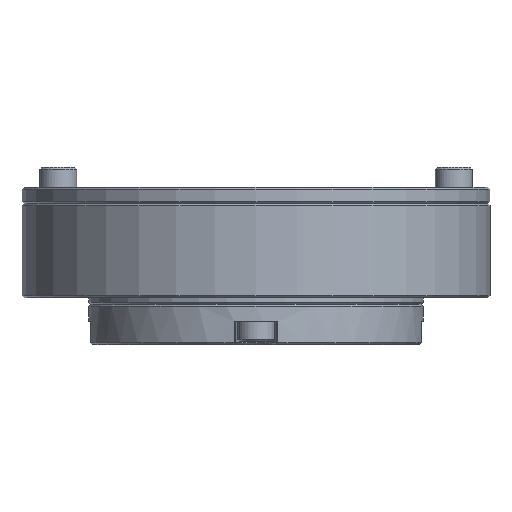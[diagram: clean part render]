
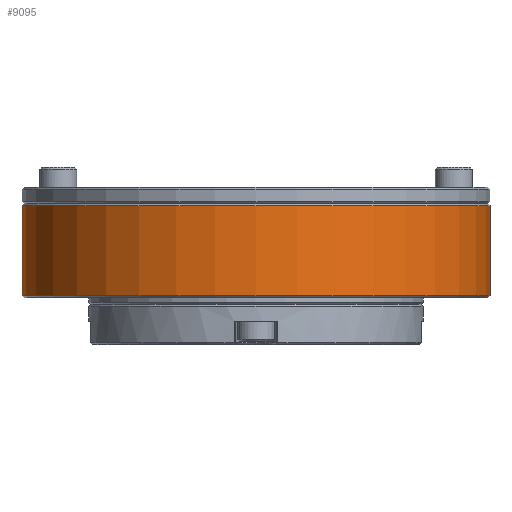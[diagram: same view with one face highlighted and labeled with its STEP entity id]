
A CAD part, front view. The second image highlights one B-rep face of the part: STEP entity #9095.
In plain terms, the highlighted cylindrical face has radius 35 mm (diameter 70 mm), a partial arc.
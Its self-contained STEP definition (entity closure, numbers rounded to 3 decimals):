
#312 = ORIENTED_EDGE ( 'NONE', *, *, #9063, .F. ) ;
#628 = AXIS2_PLACEMENT_3D ( 'NONE', #2216, #2270, #2366 ) ;
#930 = CIRCLE ( 'NONE', #628, 35. ) ;
#958 = EDGE_CURVE ( 'NONE', #7779, #5281, #930, .T. ) ;
#2216 = CARTESIAN_POINT ( 'NONE',  ( 5.714, 2.214, 53.05 ) ) ;
#2270 = DIRECTION ( 'NONE',  ( 0., 0., 1. ) ) ;
#2318 = EDGE_LOOP ( 'NONE', ( #312, #12349, #4980, #3370 ) ) ;
#2366 = DIRECTION ( 'NONE',  ( -1., 0., 0. ) ) ;
#2418 = CARTESIAN_POINT ( 'NONE',  ( -29.286, 2.214, 53.05 ) ) ;
#3370 = ORIENTED_EDGE ( 'NONE', *, *, #7944, .T. ) ;
#4407 = EDGE_CURVE ( 'NONE', #5281, #6602, #6086, .T. ) ;
#4752 = CARTESIAN_POINT ( 'NONE',  ( 5.714, 2.214, 66.55 ) ) ;
#4778 = CARTESIAN_POINT ( 'NONE',  ( -29.286, 2.214, 66.55 ) ) ;
#4980 = ORIENTED_EDGE ( 'NONE', *, *, #4407, .T. ) ;
#5281 = VERTEX_POINT ( 'NONE', #13043 ) ;
#5470 = DIRECTION ( 'NONE',  ( 0., 0., 1. ) ) ;
#5743 = CARTESIAN_POINT ( 'NONE',  ( 5.714, 2.214, 52.75 ) ) ;
#5855 = DIRECTION ( 'NONE',  ( 1., 0., 0. ) ) ;
#6086 = LINE ( 'NONE', #8126, #6401 ) ;
#6139 = LINE ( 'NONE', #6822, #11591 ) ;
#6181 = AXIS2_PLACEMENT_3D ( 'NONE', #4752, #12759, #12666 ) ;
#6314 = DIRECTION ( 'NONE',  ( 0., 0., 1. ) ) ;
#6401 = VECTOR ( 'NONE', #8176, 1000. ) ;
#6602 = VERTEX_POINT ( 'NONE', #10066 ) ;
#6822 = CARTESIAN_POINT ( 'NONE',  ( -29.286, 2.214, 52.75 ) ) ;
#7779 = VERTEX_POINT ( 'NONE', #2418 ) ;
#7944 = EDGE_CURVE ( 'NONE', #6602, #10422, #11792, .T. ) ;
#8126 = CARTESIAN_POINT ( 'NONE',  ( 40.714, 2.214, 52.75 ) ) ;
#8176 = DIRECTION ( 'NONE',  ( 0., 0., 1. ) ) ;
#8998 = FACE_OUTER_BOUND ( 'NONE', #2318, .T. ) ;
#9063 = EDGE_CURVE ( 'NONE', #7779, #10422, #6139, .T. ) ;
#9095 = ADVANCED_FACE ( 'NONE', ( #8998 ), #9240, .T. ) ;
#9240 = CYLINDRICAL_SURFACE ( 'NONE', #10233, 35. ) ;
#10066 = CARTESIAN_POINT ( 'NONE',  ( 40.714, 2.214, 66.55 ) ) ;
#10233 = AXIS2_PLACEMENT_3D ( 'NONE', #5743, #5470, #5855 ) ;
#10422 = VERTEX_POINT ( 'NONE', #4778 ) ;
#11591 = VECTOR ( 'NONE', #6314, 1000. ) ;
#11792 = CIRCLE ( 'NONE', #6181, 35. ) ;
#12349 = ORIENTED_EDGE ( 'NONE', *, *, #958, .T. ) ;
#12666 = DIRECTION ( 'NONE',  ( -1., 0., 0. ) ) ;
#12759 = DIRECTION ( 'NONE',  ( 0., 0., -1. ) ) ;
#13043 = CARTESIAN_POINT ( 'NONE',  ( 40.714, 2.214, 53.05 ) ) ;
